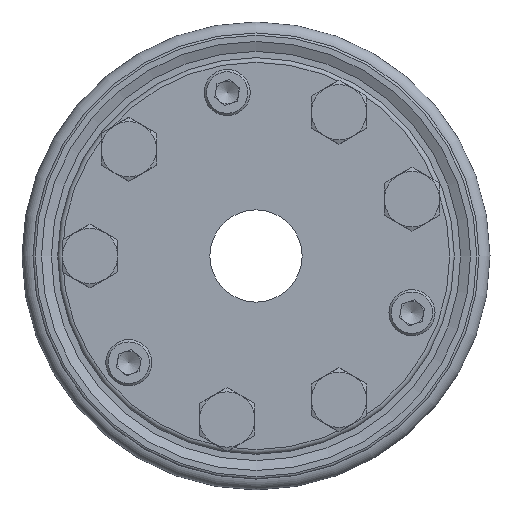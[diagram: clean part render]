
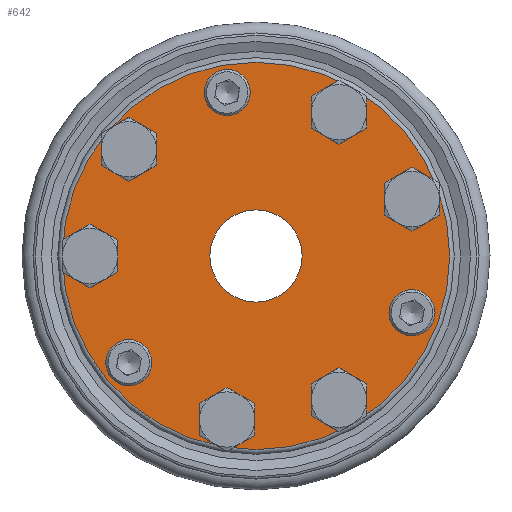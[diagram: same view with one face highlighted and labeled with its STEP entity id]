
A CAD part, left-side view. The second image highlights one B-rep face of the part: STEP entity #642.
In plain terms, the highlighted planar face has unit normal (-1, 0, 0).
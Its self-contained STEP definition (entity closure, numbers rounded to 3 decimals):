
#642 = ADVANCED_FACE( '', ( #1695, #1696, #1697, #1698, #1699, #1700, #1701, #1702, #1703, #1704, #1705 ), #1706, .T. );
#1695 = FACE_OUTER_BOUND( '', #3308, .T. );
#1696 = FACE_BOUND( '', #3309, .T. );
#1697 = FACE_BOUND( '', #3310, .T. );
#1698 = FACE_BOUND( '', #3311, .T. );
#1699 = FACE_BOUND( '', #3312, .T. );
#1700 = FACE_BOUND( '', #3313, .T. );
#1701 = FACE_BOUND( '', #3314, .T. );
#1702 = FACE_BOUND( '', #3315, .T. );
#1703 = FACE_BOUND( '', #3316, .T. );
#1704 = FACE_BOUND( '', #3317, .T. );
#1705 = FACE_BOUND( '', #3318, .T. );
#1706 = PLANE( '', #3319 );
#3308 = EDGE_LOOP( '', ( #5233 ) );
#3309 = EDGE_LOOP( '', ( #5234 ) );
#3310 = EDGE_LOOP( '', ( #5235 ) );
#3311 = EDGE_LOOP( '', ( #5236 ) );
#3312 = EDGE_LOOP( '', ( #5237 ) );
#3313 = EDGE_LOOP( '', ( #5238 ) );
#3314 = EDGE_LOOP( '', ( #5239 ) );
#3315 = EDGE_LOOP( '', ( #5240 ) );
#3316 = EDGE_LOOP( '', ( #5241 ) );
#3317 = EDGE_LOOP( '', ( #5242 ) );
#3318 = EDGE_LOOP( '', ( #5243 ) );
#3319 = AXIS2_PLACEMENT_3D( '', #5244, #5245, #5246 );
#5233 = ORIENTED_EDGE( '', *, *, #8279, .T. );
#5234 = ORIENTED_EDGE( '', *, *, #8273, .T. );
#5235 = ORIENTED_EDGE( '', *, *, #8280, .T. );
#5236 = ORIENTED_EDGE( '', *, *, #8044, .T. );
#5237 = ORIENTED_EDGE( '', *, *, #8281, .T. );
#5238 = ORIENTED_EDGE( '', *, *, #8282, .T. );
#5239 = ORIENTED_EDGE( '', *, *, #8283, .T. );
#5240 = ORIENTED_EDGE( '', *, *, #8284, .T. );
#5241 = ORIENTED_EDGE( '', *, *, #8285, .T. );
#5242 = ORIENTED_EDGE( '', *, *, #8286, .T. );
#5243 = ORIENTED_EDGE( '', *, *, #8017, .T. );
#5244 = CARTESIAN_POINT( '', ( -105., -17.854, 6.498 ) );
#5245 = DIRECTION( '', ( -1., 0., 0. ) );
#5246 = DIRECTION( '', ( 0., -0.94, 0.342 ) );
#8017 = EDGE_CURVE( '', #9303, #9303, #9304, .F. );
#8044 = EDGE_CURVE( '', #9348, #9348, #9349, .F. );
#8273 = EDGE_CURVE( '', #9725, #9725, #9726, .F. );
#8279 = EDGE_CURVE( '', #9735, #9735, #9736, .T. );
#8280 = EDGE_CURVE( '', #9737, #9737, #9738, .F. );
#8281 = EDGE_CURVE( '', #9739, #9739, #9740, .F. );
#8282 = EDGE_CURVE( '', #9741, #9741, #9742, .F. );
#8283 = EDGE_CURVE( '', #9743, #9743, #9744, .F. );
#8284 = EDGE_CURVE( '', #9745, #9745, #9746, .F. );
#8285 = EDGE_CURVE( '', #9747, #9747, #9748, .F. );
#8286 = EDGE_CURVE( '', #9749, #9749, #9750, .F. );
#9303 = VERTEX_POINT( '', #11159 );
#9304 = CIRCLE( '', #11160, 20. );
#9348 = VERTEX_POINT( '', #11223 );
#9349 = CIRCLE( '', #11224, 10. );
#9725 = VERTEX_POINT( '', #11836 );
#9726 = CIRCLE( '', #11837, 10. );
#9735 = VERTEX_POINT( '', #11846 );
#9736 = CIRCLE( '', #11847, 84. );
#9737 = VERTEX_POINT( '', #11848 );
#9738 = CIRCLE( '', #11849, 10. );
#9739 = VERTEX_POINT( '', #11850 );
#9740 = CIRCLE( '', #11851, 11.25 );
#9741 = VERTEX_POINT( '', #11852 );
#9742 = CIRCLE( '', #11853, 11.25 );
#9743 = VERTEX_POINT( '', #11854 );
#9744 = CIRCLE( '', #11855, 11.25 );
#9745 = VERTEX_POINT( '', #11856 );
#9746 = CIRCLE( '', #11857, 11.25 );
#9747 = VERTEX_POINT( '', #11858 );
#9748 = CIRCLE( '', #11859, 11.25 );
#9749 = VERTEX_POINT( '', #11860 );
#9750 = CIRCLE( '', #11861, 11.25 );
#11159 = CARTESIAN_POINT( '', ( -105., 0., 20. ) );
#11160 = AXIS2_PLACEMENT_3D( '', #13788, #13789, #13790 );
#11223 = CARTESIAN_POINT( '', ( -105., -67.658, -14.625 ) );
#11224 = AXIS2_PLACEMENT_3D( '', #13821, #13822, #13823 );
#11836 = CARTESIAN_POINT( '', ( -105., 12.503, 80.906 ) );
#11837 = AXIS2_PLACEMENT_3D( '', #14122, #14123, #14124 );
#11846 = CARTESIAN_POINT( '', ( -105., -78.934, 28.73 ) );
#11847 = AXIS2_PLACEMENT_3D( '', #14134, #14135, #14136 );
#11848 = CARTESIAN_POINT( '', ( -105., 55.155, -36.281 ) );
#11849 = AXIS2_PLACEMENT_3D( '', #14137, #14138, #14139 );
#11850 = CARTESIAN_POINT( '', ( -105., 55.155, 57.531 ) );
#11851 = AXIS2_PLACEMENT_3D( '', #14140, #14141, #14142 );
#11852 = CARTESIAN_POINT( '', ( -105., 72., 11.25 ) );
#11853 = AXIS2_PLACEMENT_3D( '', #14143, #14144, #14145 );
#11854 = CARTESIAN_POINT( '', ( -105., -36., 73.604 ) );
#11855 = AXIS2_PLACEMENT_3D( '', #14146, #14147, #14148 );
#11856 = CARTESIAN_POINT( '', ( -105., -67.658, 35.875 ) );
#11857 = AXIS2_PLACEMENT_3D( '', #14149, #14150, #14151 );
#11858 = CARTESIAN_POINT( '', ( -105., -36., -51.104 ) );
#11859 = AXIS2_PLACEMENT_3D( '', #14152, #14153, #14154 );
#11860 = CARTESIAN_POINT( '', ( -105., 12.503, -59.656 ) );
#11861 = AXIS2_PLACEMENT_3D( '', #14155, #14156, #14157 );
#13788 = CARTESIAN_POINT( '', ( -105., 0., 0. ) );
#13789 = DIRECTION( '', ( -1., 0., 0. ) );
#13790 = DIRECTION( '', ( 0., 0., 1. ) );
#13821 = CARTESIAN_POINT( '', ( -105., -67.658, -24.625 ) );
#13822 = DIRECTION( '', ( -1., 0., 0. ) );
#13823 = DIRECTION( '', ( 0., 0., 1. ) );
#14122 = CARTESIAN_POINT( '', ( -105., 12.503, 70.906 ) );
#14123 = DIRECTION( '', ( -1., 0., 0. ) );
#14124 = DIRECTION( '', ( 0., 0., 1. ) );
#14134 = CARTESIAN_POINT( '', ( -105., 0., 0. ) );
#14135 = DIRECTION( '', ( -1., 0., 0. ) );
#14136 = DIRECTION( '', ( 0., -0.94, 0.342 ) );
#14137 = CARTESIAN_POINT( '', ( -105., 55.155, -46.281 ) );
#14138 = DIRECTION( '', ( -1., 0., 0. ) );
#14139 = DIRECTION( '', ( 0., 0., 1. ) );
#14140 = CARTESIAN_POINT( '', ( -105., 55.155, 46.281 ) );
#14141 = DIRECTION( '', ( -1., 0., 0. ) );
#14142 = DIRECTION( '', ( 0., 0., 1. ) );
#14143 = CARTESIAN_POINT( '', ( -105., 72., 0. ) );
#14144 = DIRECTION( '', ( -1., 0., 0. ) );
#14145 = DIRECTION( '', ( 0., 0., 1. ) );
#14146 = CARTESIAN_POINT( '', ( -105., -36., 62.354 ) );
#14147 = DIRECTION( '', ( -1., 0., 0. ) );
#14148 = DIRECTION( '', ( 0., 0., 1. ) );
#14149 = CARTESIAN_POINT( '', ( -105., -67.658, 24.625 ) );
#14150 = DIRECTION( '', ( -1., 0., 0. ) );
#14151 = DIRECTION( '', ( 0., 0., 1. ) );
#14152 = CARTESIAN_POINT( '', ( -105., -36., -62.354 ) );
#14153 = DIRECTION( '', ( -1., 0., 0. ) );
#14154 = DIRECTION( '', ( 0., 0., 1. ) );
#14155 = CARTESIAN_POINT( '', ( -105., 12.503, -70.906 ) );
#14156 = DIRECTION( '', ( -1., 0., 0. ) );
#14157 = DIRECTION( '', ( 0., 0., 1. ) );
